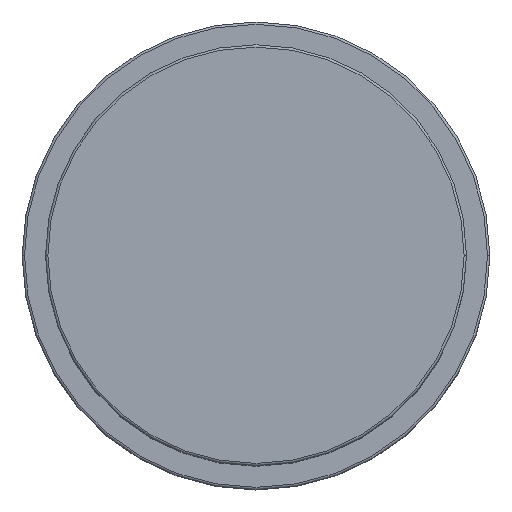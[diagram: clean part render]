
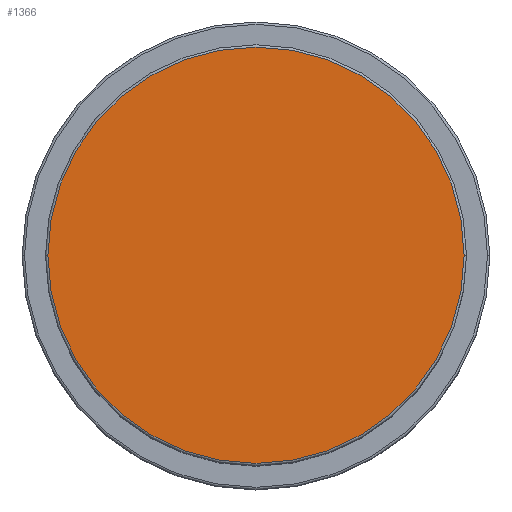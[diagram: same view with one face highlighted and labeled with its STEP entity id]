
A CAD part, top view. The second image highlights one B-rep face of the part: STEP entity #1366.
In plain terms, the highlighted planar face has unit normal (0, 0, 1).
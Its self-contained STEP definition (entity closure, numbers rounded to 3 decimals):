
#133 = ORIENTED_EDGE ( 'NONE', *, *, #1404, .T. ) ;
#223 = CARTESIAN_POINT ( 'NONE',  ( 0., 0., 92. ) ) ;
#228 = DIRECTION ( 'NONE',  ( 1., 0., 0. ) ) ;
#240 = AXIS2_PLACEMENT_3D ( 'NONE', #1128, #1374, #228 ) ;
#351 = DIRECTION ( 'NONE',  ( 1., 0., 0. ) ) ;
#454 = EDGE_LOOP ( 'NONE', ( #133, #857 ) ) ;
#759 = DIRECTION ( 'NONE',  ( 0., 0., 1. ) ) ;
#774 = CARTESIAN_POINT ( 'NONE',  ( 0., 0., 92. ) ) ;
#857 = ORIENTED_EDGE ( 'NONE', *, *, #1592, .T. ) ;
#861 = PLANE ( 'NONE',  #1327 ) ;
#873 = FACE_OUTER_BOUND ( 'NONE', #454, .T. ) ;
#888 = DIRECTION ( 'NONE',  ( 1., 0., 0. ) ) ;
#985 = DIRECTION ( 'NONE',  ( 0., 0., 1. ) ) ;
#1109 = CIRCLE ( 'NONE', #1187, 44.5 ) ;
#1128 = CARTESIAN_POINT ( 'NONE',  ( 0., 0., 92. ) ) ;
#1139 = CARTESIAN_POINT ( 'NONE',  ( 44.5, 0., 92. ) ) ;
#1187 = AXIS2_PLACEMENT_3D ( 'NONE', #774, #759, #888 ) ;
#1327 = AXIS2_PLACEMENT_3D ( 'NONE', #223, #985, #351 ) ;
#1366 = ADVANCED_FACE ( 'NONE', ( #873 ), #861, .T. ) ;
#1374 = DIRECTION ( 'NONE',  ( 0., 0., 1. ) ) ;
#1391 = CIRCLE ( 'NONE', #240, 44.5 ) ;
#1404 = EDGE_CURVE ( 'NONE', #1591, #1406, #1391, .T. ) ;
#1406 = VERTEX_POINT ( 'NONE', #1618 ) ;
#1591 = VERTEX_POINT ( 'NONE', #1139 ) ;
#1592 = EDGE_CURVE ( 'NONE', #1406, #1591, #1109, .T. ) ;
#1618 = CARTESIAN_POINT ( 'NONE',  ( -44.5, 0., 92. ) ) ;
